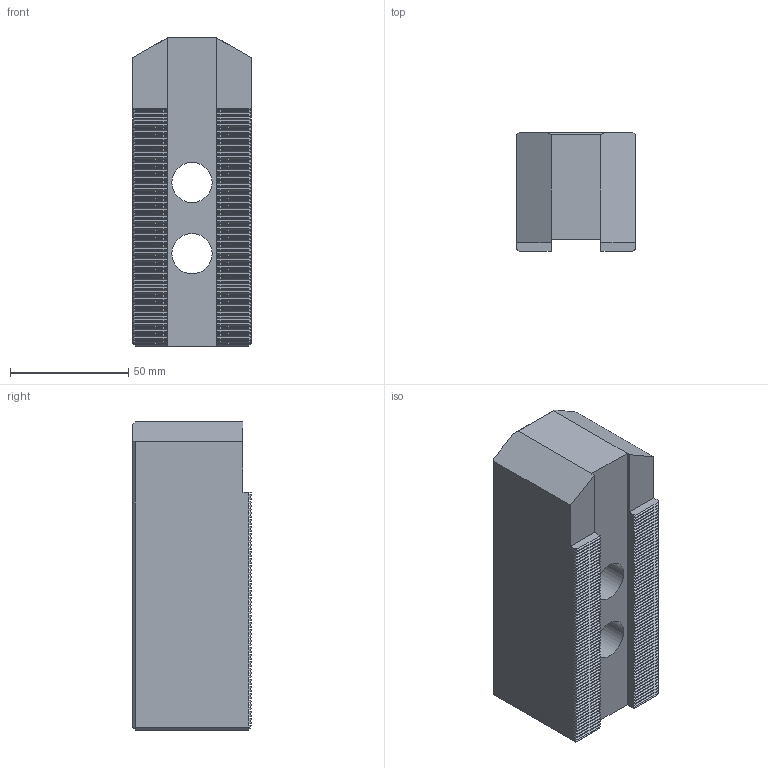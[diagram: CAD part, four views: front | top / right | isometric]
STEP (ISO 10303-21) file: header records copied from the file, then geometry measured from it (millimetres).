
FILE_DESCRIPTION(/* description */ (''),/* implementation_level */ '2;1');
FILE_NAME(/* name */ '',/* time_stamp */ '2025-10-20T16:47:47+03:00',/* author */ ('Arina Rekina'),/* organization */ (''),/* preprocessor_version */ 'ST-DEVELOPER v19.2',/* originating_system */ 'Autodesk Inventor 2024',/* authorisation */ '');
FILE_SCHEMA (('AUTOMOTIVE_DESIGN { 1 0 10303 214 3 1 1 }'));
Length unit declared in the file: millimetre
Products named in the file (1): SC-12-21(160мм) 
Bounding box: 50 x 50 x 130 mm (x, y, z)
Volume: 264913 mm3; surface area: 37766.1 mm2
Topology: 1 solids, 1 shells, 568 faces, 1412 edges, 848 vertices
Faces by surface type: plane 562, cylinder 4, cone 2
Full cylindrical faces by diameter (mm): 17 x2, 24.5 x2
Entity records: 16199 total; most frequent: CARTESIAN_POINT 2829, ORIENTED_EDGE 2824, DIRECTION 2562, EDGE_CURVE 1412, LINE 1400, VECTOR 1400, VERTEX_POINT 848, AXIS2_PLACEMENT_3D 581
